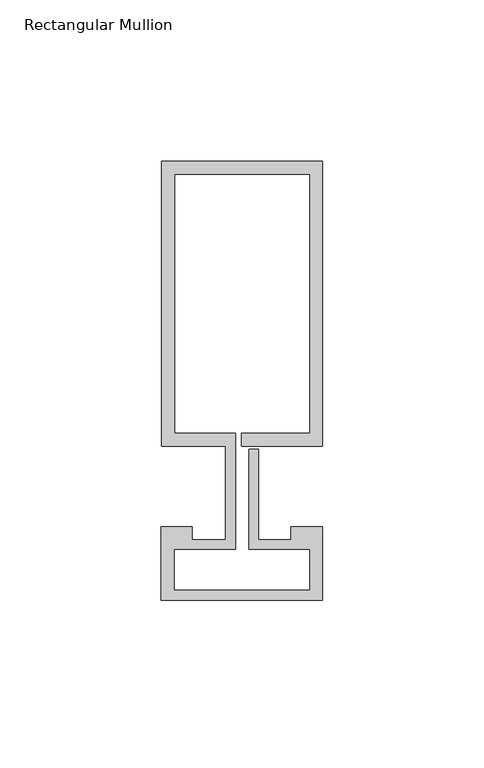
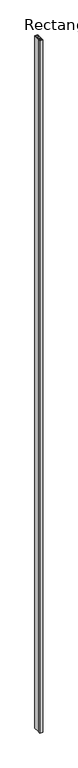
"""IFC4 building model written with IfcOpenShell, lengths in millimetres: member geometry, Rectangular Mullion : Reynaers_CW-50_Mullion-Transom_Horizontal_88.4mm_Facecap-02C."""

from ifc_helpers import new_model, si_unit, frame, origin, place, context, project, spatial, polyline, outline, extrude, source, transform, mapped, element, save


def rectangular_mullion_515c6c0a(model_context):
    return source(origin(), model_context, "Body", "SweptSolid", [
        extrude(outline(polyline([(-24.8004059, 100.9), (25.1995941, 100.9), (25.1995941, 12.5), (0.0, 12.5), (0.0, 16.5), (21.1995941, 16.5), (21.1995941, 96.9), (-20.8004059, 96.9), (-20.8004059, 16.5), (-1.9004059, 16.5), (-1.9004059, -19.5), (-20.994845, -19.5), (-20.994845, -32.2191338), (21.1995941, -32.2191338), (21.1995941, -19.5), (2.2995941, -19.5), (2.2995941, 11.5), (5.2995941, 11.5), (5.2995941, -16.5), (15.2996495, -16.5), (15.2996495, -12.5), (25.1995941, -12.5), (25.1995941, -35.3), (-24.994845, -35.3), (-24.994845, -12.5), (-15.2996495, -12.5), (-15.2996495, -16.5), (-4.9004059, -16.5), (-4.9004059, 12.5), (-24.8004059, 12.5), (-24.8004059, 100.9)])), frame((0.0, 0.0, -12000.0), z_axis=(0.0, 0.0, 1.0), x_axis=(1.0, 0.0, 0.0)), (0.0, 0.0, 1.0), 12000.0),
    ])


if __name__ == "__main__":
    model = new_model("IFC4")
    model_context = context("Model", 3, world=origin())
    ifc_project = project(units=[si_unit("LENGTHUNIT", "METRE", prefix="MILLI")], contexts=[model_context])
    site = spatial("IfcSite", under=ifc_project)
    building = spatial("IfcBuilding", under=site)
    placement = place(None, origin())
    rectangular_mullion_shape = rectangular_mullion_515c6c0a(model_context)
    element("IfcMember", 1, ObjectType="Rectangular Mullion : Reynaers_CW-50_Mullion-Transom_Horizontal_88.4mm_Facecap-02C", at=placement, inside=building, context=model_context, shape_type="MappedRepresentation", body=[
        mapped(rectangular_mullion_shape, transform((0.0, 0.0, 0.0), x_axis=(1.0, 0.0, 0.0), y_axis=(0.0, 1.0, 0.0), z_axis=(0.0, 0.0, 1.0))),
    ])
    save(model, "model.ifc")
